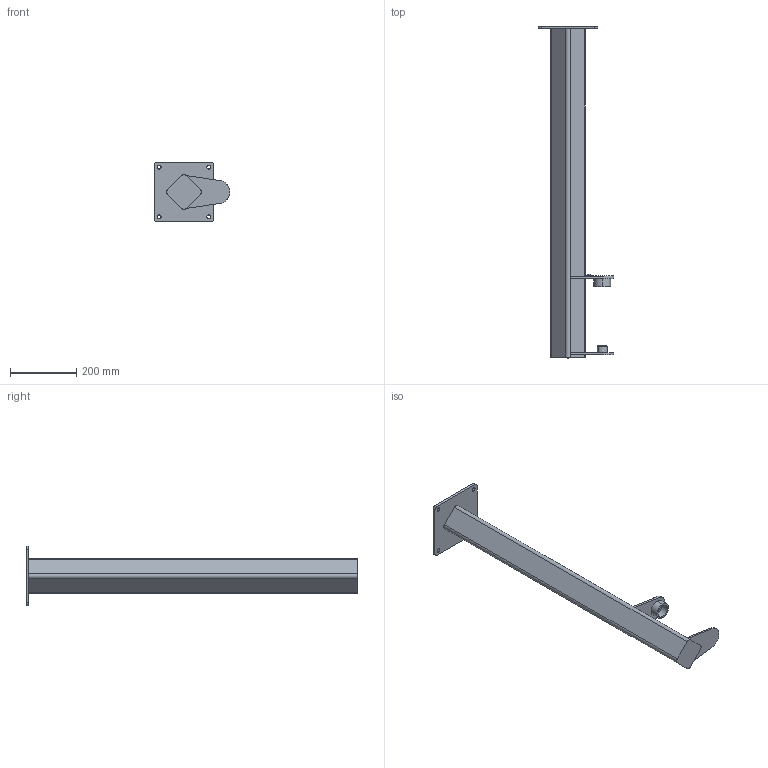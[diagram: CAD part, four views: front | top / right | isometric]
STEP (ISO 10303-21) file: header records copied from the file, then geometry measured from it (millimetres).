
FILE_DESCRIPTION((''),'2;1');
FILE_NAME('PTZ_1000_100-6315','2019-08-23T13:54:07',('Tomas Bellgran'),(''),'CREO PARAMETRIC BY PTC INC, 2018260','CREO PARAMETRIC BY PTC INC, 2018260','');
FILE_SCHEMA(('AUTOMOTIVE_DESIGN { 1 0 10303 214 1 1 1 1 }'));
Length unit declared in the file: millimetre
Products named in the file (1): PTZ_1000_100-6315
Bounding box: 228.42 x 1000 x 180 mm (x, y, z)
Volume: 6654848.2 mm3; surface area: 413294.8 mm2
Topology: 1 solids, 1 shells, 65 faces, 172 edges, 114 vertices
Faces by surface type: cylinder 33, plane 30, cone 2
Entity records: 2256 total; most frequent: DIRECTION 385, CARTESIAN_POINT 362, ORIENTED_EDGE 344, EDGE_CURVE 172, AXIS2_PLACEMENT_3D 140, VERTEX_POINT 114, VECTOR 102, LINE 102
